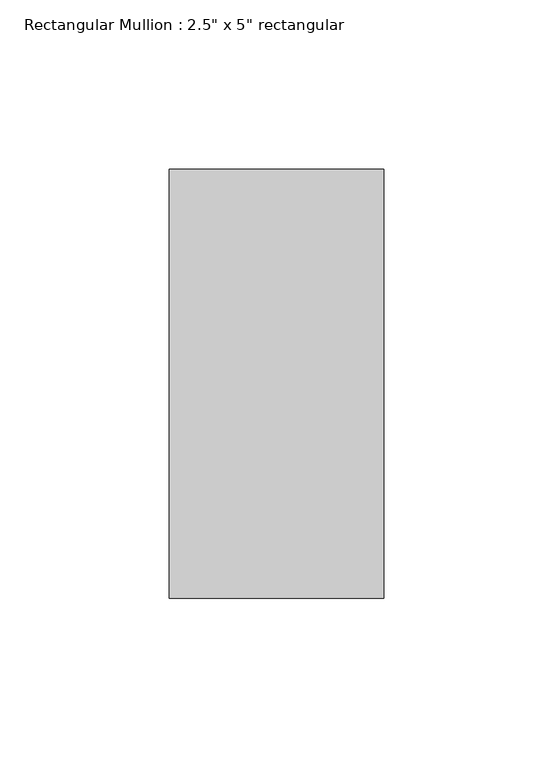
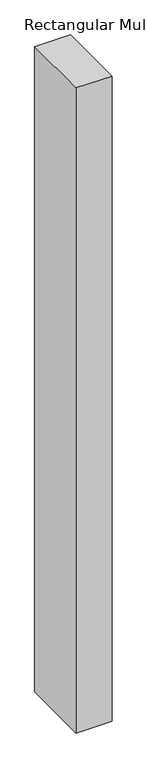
"""IFC4 building model written with IfcOpenShell, lengths in millimetres: member geometry."""

from ifc_helpers import new_model, si_unit, frame, origin, place, context, project, spatial, polyline, outline, extrude, source, transform, mapped, element, save


def member_935f61b8(model_context):
    return source(origin(), model_context, "Body", "SweptSolid", [
        extrude(outline(polyline([(31.75, 63.5), (31.75, -63.5), (-31.75, -63.5), (-31.75, 63.5), (31.75, 63.5)])), frame((0.0, 0.0, -1206.5), z_axis=(0.0, 0.0, 1.0), x_axis=(1.0, 0.0, 0.0)), (0.0, 0.0, 1.0), 1206.5),
    ])


if __name__ == "__main__":
    model = new_model("IFC4")
    model_context = context("Model", 3, world=origin())
    ifc_project = project(units=[si_unit("LENGTHUNIT", "METRE", prefix="MILLI")], contexts=[model_context])
    site = spatial("IfcSite", under=ifc_project)
    building = spatial("IfcBuilding", under=site)
    placement = place(None, origin())
    member_shape = member_935f61b8(model_context)
    element("IfcMember", 1, ObjectType="Rectangular Mullion : 2.5\" x 5\" rectangular", at=placement, inside=building, context=model_context, shape_type="MappedRepresentation", body=[
        mapped(member_shape, transform((0.0, 0.0, 0.0), x_axis=(1.0, 0.0, 0.0), y_axis=(0.0, 1.0, 0.0), z_axis=(0.0, 0.0, 1.0))),
    ])
    save(model, "model.ifc")
